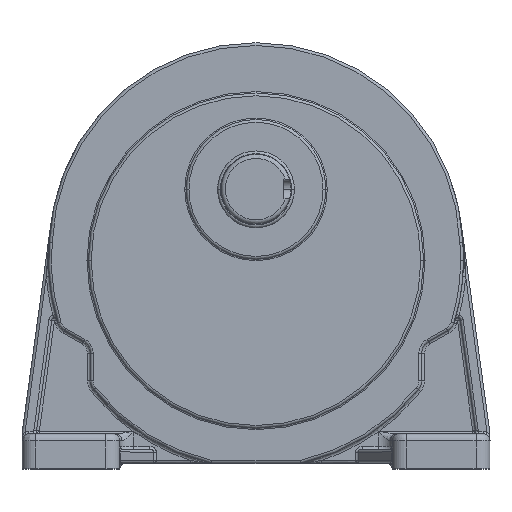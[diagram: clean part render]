
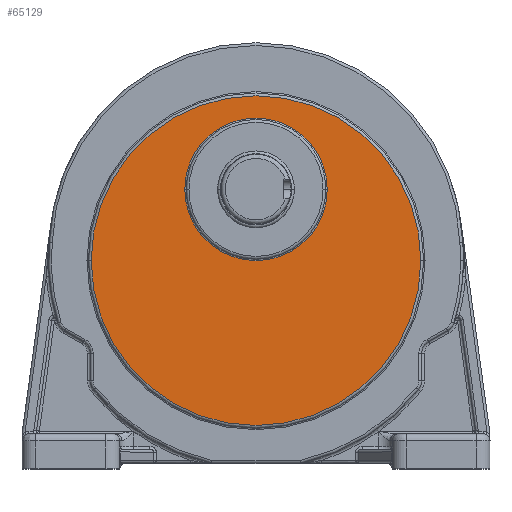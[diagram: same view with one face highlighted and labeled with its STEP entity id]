
A CAD part, top view. The second image highlights one B-rep face of the part: STEP entity #65129.
In plain terms, the highlighted planar face has unit normal (0, 0, 1).
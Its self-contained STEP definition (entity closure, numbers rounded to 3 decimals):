
#1966 = VERTEX_POINT ( 'NONE', #52444 ) ;
#4352 = DIRECTION ( 'NONE',  ( 0., 0., 1. ) ) ;
#12186 = CIRCLE ( 'NONE', #78997, 118. ) ;
#12222 = DIRECTION ( 'NONE',  ( 0., 0., -1. ) ) ;
#13260 = VERTEX_POINT ( 'NONE', #45569 ) ;
#14537 = CARTESIAN_POINT ( 'NONE',  ( 51., 51.021, 386.5 ) ) ;
#17223 = AXIS2_PLACEMENT_3D ( 'NONE', #86213, #4352, #40785 ) ;
#24702 = DIRECTION ( 'NONE',  ( 1., 0., 0. ) ) ;
#26264 = DIRECTION ( 'NONE',  ( 1., 0., 0. ) ) ;
#32192 = ORIENTED_EDGE ( 'NONE', *, *, #56139, .F. ) ;
#35090 = CIRCLE ( 'NONE', #101898, 51. ) ;
#35225 = PLANE ( 'NONE',  #105372 ) ;
#37505 = CARTESIAN_POINT ( 'NONE',  ( 0., 0., 386.5 ) ) ;
#38080 = VERTEX_POINT ( 'NONE', #73738 ) ;
#40785 = DIRECTION ( 'NONE',  ( -1., 0., 0. ) ) ;
#41010 = CIRCLE ( 'NONE', #107816, 118. ) ;
#45569 = CARTESIAN_POINT ( 'NONE',  ( -118., 0., 386.5 ) ) ;
#45693 = EDGE_CURVE ( 'NONE', #38080, #61889, #35090, .T. ) ;
#48676 = DIRECTION ( 'NONE',  ( -1., 0., 0. ) ) ;
#52444 = CARTESIAN_POINT ( 'NONE',  ( 118., 0., 386.5 ) ) ;
#56139 = EDGE_CURVE ( 'NONE', #38080, #61889, #68782, .T. ) ;
#61889 = VERTEX_POINT ( 'NONE', #14537 ) ;
#63549 = ORIENTED_EDGE ( 'NONE', *, *, #45693, .T. ) ;
#65129 = ADVANCED_FACE ( 'NONE', ( #80664, #117096 ), #35225, .T. ) ;
#65928 = ORIENTED_EDGE ( 'NONE', *, *, #86296, .F. ) ;
#68782 = CIRCLE ( 'NONE', #17223, 51. ) ;
#70173 = CARTESIAN_POINT ( 'NONE',  ( 0., 0., 386.5 ) ) ;
#71714 = CARTESIAN_POINT ( 'NONE',  ( 0., 0., 386.5 ) ) ;
#73738 = CARTESIAN_POINT ( 'NONE',  ( -51., 50.979, 386.5 ) ) ;
#73985 = DIRECTION ( 'NONE',  ( 0., 0., -1. ) ) ;
#78997 = AXIS2_PLACEMENT_3D ( 'NONE', #37505, #73985, #110412 ) ;
#79791 = EDGE_LOOP ( 'NONE', ( #65928, #114822 ) ) ;
#80664 = FACE_OUTER_BOUND ( 'NONE', #79791, .T. ) ;
#86213 = CARTESIAN_POINT ( 'NONE',  ( 0., 51., 386.5 ) ) ;
#86296 = EDGE_CURVE ( 'NONE', #13260, #1966, #12186, .T. ) ;
#87815 = EDGE_CURVE ( 'NONE', #1966, #13260, #41010, .T. ) ;
#90758 = EDGE_LOOP ( 'NONE', ( #63549, #32192 ) ) ;
#94094 = CARTESIAN_POINT ( 'NONE',  ( 0., 51., 386.5 ) ) ;
#101898 = AXIS2_PLACEMENT_3D ( 'NONE', #94094, #12222, #48676 ) ;
#105372 = AXIS2_PLACEMENT_3D ( 'NONE', #71714, #108158, #26264 ) ;
#106594 = DIRECTION ( 'NONE',  ( 0., 0., -1. ) ) ;
#107816 = AXIS2_PLACEMENT_3D ( 'NONE', #70173, #106594, #24702 ) ;
#108158 = DIRECTION ( 'NONE',  ( 0., 0., 1. ) ) ;
#110412 = DIRECTION ( 'NONE',  ( -1., 0., 0. ) ) ;
#114822 = ORIENTED_EDGE ( 'NONE', *, *, #87815, .F. ) ;
#117096 = FACE_BOUND ( 'NONE', #90758, .T. ) ;
